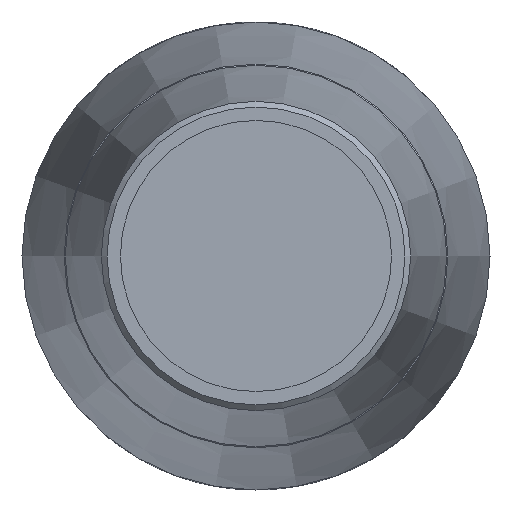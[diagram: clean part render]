
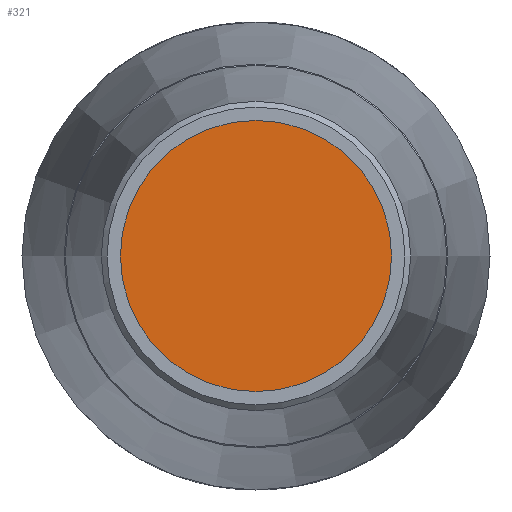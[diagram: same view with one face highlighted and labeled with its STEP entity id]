
A CAD part, left-side view. The second image highlights one B-rep face of the part: STEP entity #321.
In plain terms, the highlighted planar face has unit normal (-1, 0, 0).
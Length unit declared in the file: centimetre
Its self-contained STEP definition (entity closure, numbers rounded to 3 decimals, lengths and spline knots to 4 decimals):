
#90=FACE_OUTER_BOUND('',#132,.T.);
#132=EDGE_LOOP('',(#266));
#150=CIRCLE('',#363,1.275);
#176=VERTEX_POINT('',#634);
#206=EDGE_CURVE('',#176,#176,#150,.T.);
#266=ORIENTED_EDGE('',*,*,#206,.T.);
#274=PLANE('',#364);
#321=ADVANCED_FACE('',(#90),#274,.T.);
#363=AXIS2_PLACEMENT_3D('',#635,#453,#454);
#364=AXIS2_PLACEMENT_3D('',#636,#455,#456);
#453=DIRECTION('center_axis',(-1.,0.,0.));
#454=DIRECTION('ref_axis',(0.,0.,-1.));
#455=DIRECTION('center_axis',(-1.,0.,0.));
#456=DIRECTION('ref_axis',(0.,0.,-1.));
#634=CARTESIAN_POINT('',(-13.25,1.275,0.));
#635=CARTESIAN_POINT('Origin',(-13.25,0.,0.));
#636=CARTESIAN_POINT('Origin',(-13.25,0.,0.));
